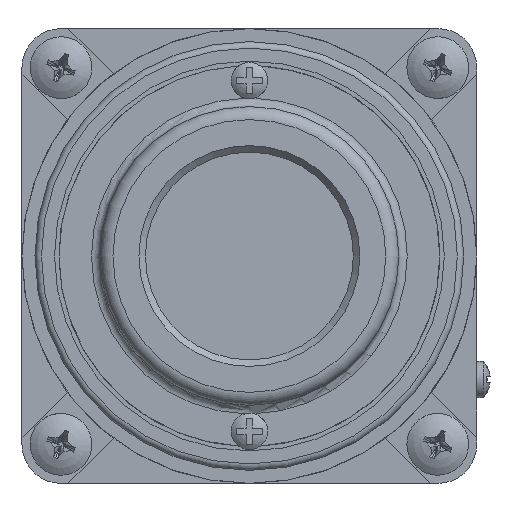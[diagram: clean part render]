
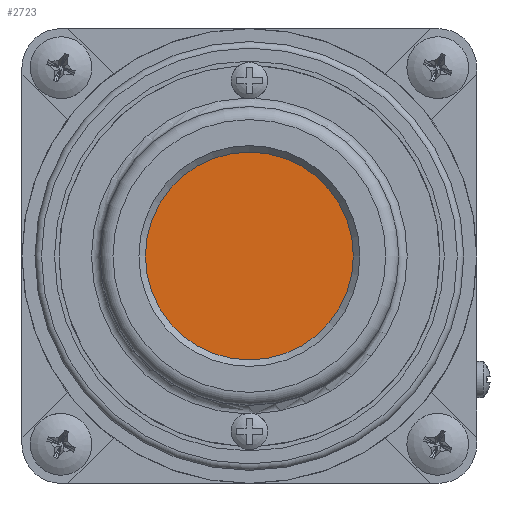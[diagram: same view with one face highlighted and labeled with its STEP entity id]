
A CAD part, left-side view. The second image highlights one B-rep face of the part: STEP entity #2723.
In plain terms, the highlighted planar face has unit normal (-1, 0, 0).
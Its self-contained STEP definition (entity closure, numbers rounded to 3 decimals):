
#1238=FACE_OUTER_BOUND('',#3602,.T.);
#2389=PLANE('',#8121);
#2723=ADVANCED_FACE('',(#1238),#2389,.T.);
#3602=EDGE_LOOP('',(#4853));
#4853=ORIENTED_EDGE('',*,*,#6766,.F.);
#5985=VERTEX_POINT('',#12058);
#6766=EDGE_CURVE('',#5985,#5985,#7374,.T.);
#7374=CIRCLE('',#8120,16.);
#8120=AXIS2_PLACEMENT_3D('',#12057,#9327,#9328);
#8121=AXIS2_PLACEMENT_3D('',#12059,#9329,#9330);
#9327=DIRECTION('',(1.,0.,0.));
#9328=DIRECTION('',(0.,0.,-1.));
#9329=DIRECTION('',(-1.,0.,0.));
#9330=DIRECTION('',(0.,0.,-1.));
#12057=CARTESIAN_POINT('',(-102.,0.,0.));
#12058=CARTESIAN_POINT('',(-102.,0.,-16.));
#12059=CARTESIAN_POINT('',(-102.,0.,0.));
